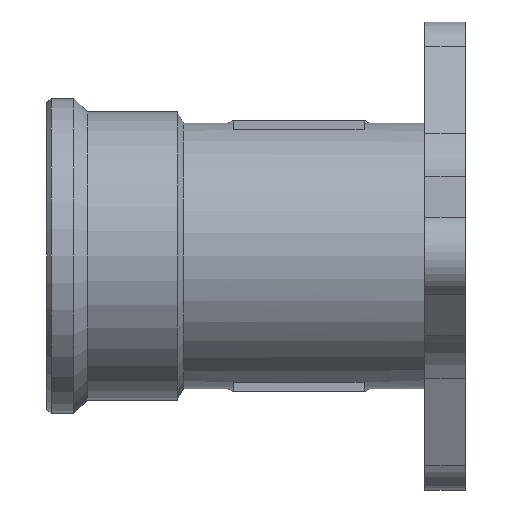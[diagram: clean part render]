
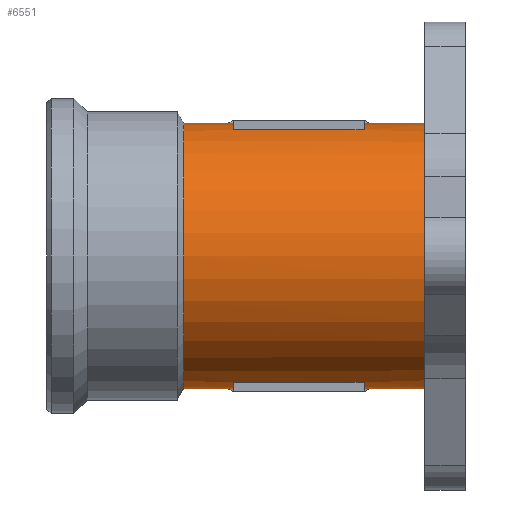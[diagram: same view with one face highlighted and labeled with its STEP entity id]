
A CAD part, left-side view. The second image highlights one B-rep face of the part: STEP entity #6551.
In plain terms, the highlighted cylindrical face has radius 14.75 mm (diameter 29.5 mm), a full revolution.
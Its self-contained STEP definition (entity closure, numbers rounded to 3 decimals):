
#165=B_SPLINE_CURVE_WITH_KNOTS('',3,(#10443,#10444,#10445,#10446,#10447,
#10448,#10449,#10450),.UNSPECIFIED.,.F.,.F.,(4,1,1,1,1,4),(0.,0.2,
0.4,0.8,1.201,1.401),
 .UNSPECIFIED.);
#166=B_SPLINE_CURVE_WITH_KNOTS('',3,(#10452,#10453,#10454,#10455,#10456,
#10457,#10458,#10459,#10460,#10461,#10462,#10463,#10464),.UNSPECIFIED.,
 .F.,.F.,(4,1,1,1,1,1,1,1,1,1,4),(1.401,1.601,2.001,
2.401,2.668,2.935,3.202,3.469,
3.736,4.002,4.203),.UNSPECIFIED.);
#167=B_SPLINE_CURVE_WITH_KNOTS('',3,(#10465,#10466,#10467,#10468,#10469,
#10470,#10471,#10472,#10473),.UNSPECIFIED.,.F.,.F.,(4,1,1,1,1,1,4),(4.203,
4.203,4.403,4.803,5.203,5.403,
5.603),.UNSPECIFIED.);
#324=FACE_BOUND('',#1001,.T.);
#325=FACE_BOUND('',#1002,.T.);
#554=CYLINDRICAL_SURFACE('',#6974,14.75);
#634=FACE_OUTER_BOUND('',#1000,.T.);
#1000=EDGE_LOOP('',(#4642,#4643,#4644,#4645,#4646,#4647,#4648,#4649,#4650,
#4651,#4652,#4653,#4654,#4655));
#1001=EDGE_LOOP('',(#4656,#4657,#4658,#4659));
#1002=EDGE_LOOP('',(#4660,#4661,#4662,#4663));
#1404=LINE('',#10507,#1965);
#1405=LINE('',#10508,#1966);
#1406=LINE('',#10509,#1967);
#1407=LINE('',#10510,#1968);
#1408=LINE('',#10513,#1969);
#1409=LINE('',#10517,#1970);
#1410=LINE('',#10521,#1971);
#1411=LINE('',#10525,#1972);
#1965=VECTOR('',#7657,14.75);
#1966=VECTOR('',#7658,14.75);
#1967=VECTOR('',#7659,10.);
#1968=VECTOR('',#7660,10.);
#1969=VECTOR('',#7661,10.);
#1970=VECTOR('',#7664,10.);
#1971=VECTOR('',#7667,10.);
#1972=VECTOR('',#7670,10.);
#2497=CIRCLE('',#6946,14.75);
#2498=CIRCLE('',#6947,14.75);
#2507=CIRCLE('',#6963,14.75);
#2516=CIRCLE('',#6975,14.75);
#2517=CIRCLE('',#6976,14.75);
#2518=CIRCLE('',#6977,14.75);
#2519=CIRCLE('',#6978,14.75);
#2520=CIRCLE('',#6979,14.75);
#2521=CIRCLE('',#6980,14.75);
#2801=VERTEX_POINT('',#10237);
#2812=VERTEX_POINT('',#10258);
#2813=VERTEX_POINT('',#10260);
#2822=VERTEX_POINT('',#10292);
#2823=VERTEX_POINT('',#10293);
#2837=VERTEX_POINT('',#10440);
#2838=VERTEX_POINT('',#10442);
#2839=VERTEX_POINT('',#10451);
#2841=VERTEX_POINT('',#10503);
#2842=VERTEX_POINT('',#10504);
#2843=VERTEX_POINT('',#10511);
#2844=VERTEX_POINT('',#10512);
#2845=VERTEX_POINT('',#10514);
#2846=VERTEX_POINT('',#10516);
#2847=VERTEX_POINT('',#10519);
#2848=VERTEX_POINT('',#10520);
#2849=VERTEX_POINT('',#10522);
#2850=VERTEX_POINT('',#10524);
#3529=EDGE_CURVE('',#2813,#2812,#2497,.T.);
#3530=EDGE_CURVE('',#2801,#2813,#2498,.T.);
#3545=EDGE_CURVE('',#2822,#2823,#2507,.T.);
#3562=EDGE_CURVE('',#2837,#2838,#165,.T.);
#3563=EDGE_CURVE('',#2838,#2839,#166,.T.);
#3564=EDGE_CURVE('',#2839,#2837,#167,.T.);
#3567=EDGE_CURVE('',#2841,#2842,#2516,.T.);
#3568=EDGE_CURVE('',#2842,#2841,#2517,.T.);
#3569=EDGE_CURVE('',#2842,#2839,#1404,.T.);
#3570=EDGE_CURVE('',#2838,#2813,#1405,.T.);
#3571=EDGE_CURVE('',#2812,#2822,#1406,.T.);
#3572=EDGE_CURVE('',#2823,#2801,#1407,.T.);
#3573=EDGE_CURVE('',#2843,#2844,#1408,.T.);
#3574=EDGE_CURVE('',#2844,#2845,#2518,.T.);
#3575=EDGE_CURVE('',#2845,#2846,#1409,.T.);
#3576=EDGE_CURVE('',#2846,#2843,#2519,.T.);
#3577=EDGE_CURVE('',#2847,#2848,#1410,.T.);
#3578=EDGE_CURVE('',#2848,#2849,#2520,.T.);
#3579=EDGE_CURVE('',#2849,#2850,#1411,.T.);
#3580=EDGE_CURVE('',#2850,#2847,#2521,.T.);
#4642=ORIENTED_EDGE('',*,*,#3567,.F.);
#4643=ORIENTED_EDGE('',*,*,#3568,.F.);
#4644=ORIENTED_EDGE('',*,*,#3569,.T.);
#4645=ORIENTED_EDGE('',*,*,#3563,.F.);
#4646=ORIENTED_EDGE('',*,*,#3570,.T.);
#4647=ORIENTED_EDGE('',*,*,#3529,.T.);
#4648=ORIENTED_EDGE('',*,*,#3571,.T.);
#4649=ORIENTED_EDGE('',*,*,#3545,.T.);
#4650=ORIENTED_EDGE('',*,*,#3572,.T.);
#4651=ORIENTED_EDGE('',*,*,#3530,.T.);
#4652=ORIENTED_EDGE('',*,*,#3570,.F.);
#4653=ORIENTED_EDGE('',*,*,#3562,.F.);
#4654=ORIENTED_EDGE('',*,*,#3564,.F.);
#4655=ORIENTED_EDGE('',*,*,#3569,.F.);
#4656=ORIENTED_EDGE('',*,*,#3573,.T.);
#4657=ORIENTED_EDGE('',*,*,#3574,.T.);
#4658=ORIENTED_EDGE('',*,*,#3575,.T.);
#4659=ORIENTED_EDGE('',*,*,#3576,.T.);
#4660=ORIENTED_EDGE('',*,*,#3577,.T.);
#4661=ORIENTED_EDGE('',*,*,#3578,.T.);
#4662=ORIENTED_EDGE('',*,*,#3579,.T.);
#4663=ORIENTED_EDGE('',*,*,#3580,.T.);
#6551=ADVANCED_FACE('',(#634,#324,#325),#554,.T.);
#6946=AXIS2_PLACEMENT_3D('',#10261,#7581,#7582);
#6947=AXIS2_PLACEMENT_3D('',#10262,#7583,#7584);
#6963=AXIS2_PLACEMENT_3D('',#10294,#7621,#7622);
#6974=AXIS2_PLACEMENT_3D('',#10502,#7651,#7652);
#6975=AXIS2_PLACEMENT_3D('',#10505,#7653,#7654);
#6976=AXIS2_PLACEMENT_3D('',#10506,#7655,#7656);
#6977=AXIS2_PLACEMENT_3D('',#10515,#7662,#7663);
#6978=AXIS2_PLACEMENT_3D('',#10518,#7665,#7666);
#6979=AXIS2_PLACEMENT_3D('',#10523,#7668,#7669);
#6980=AXIS2_PLACEMENT_3D('',#10526,#7671,#7672);
#7581=DIRECTION('center_axis',(0.,1.,0.));
#7582=DIRECTION('ref_axis',(1.,0.,0.));
#7583=DIRECTION('center_axis',(0.,1.,0.));
#7584=DIRECTION('ref_axis',(1.,0.,0.));
#7621=DIRECTION('center_axis',(0.,1.,0.));
#7622=DIRECTION('ref_axis',(-1.,0.,0.));
#7651=DIRECTION('center_axis',(0.,1.,0.));
#7652=DIRECTION('ref_axis',(-1.,0.,0.));
#7653=DIRECTION('center_axis',(0.,1.,0.));
#7654=DIRECTION('ref_axis',(1.,0.,0.));
#7655=DIRECTION('center_axis',(0.,1.,0.));
#7656=DIRECTION('ref_axis',(1.,0.,0.));
#7657=DIRECTION('',(0.,-1.,0.));
#7658=DIRECTION('',(0.,-1.,0.));
#7659=DIRECTION('',(0.,1.,0.));
#7660=DIRECTION('',(0.,-1.,0.));
#7661=DIRECTION('',(0.,-1.,0.));
#7662=DIRECTION('center_axis',(0.,-1.,0.));
#7663=DIRECTION('ref_axis',(-1.,0.,0.));
#7664=DIRECTION('',(0.,1.,0.));
#7665=DIRECTION('center_axis',(0.,1.,0.));
#7666=DIRECTION('ref_axis',(-1.,0.,0.));
#7667=DIRECTION('',(0.,1.,0.));
#7668=DIRECTION('center_axis',(0.,1.,0.));
#7669=DIRECTION('ref_axis',(-1.,0.,0.));
#7670=DIRECTION('',(0.,-1.,0.));
#7671=DIRECTION('center_axis',(0.,-1.,0.));
#7672=DIRECTION('ref_axis',(-1.,0.,0.));
#10237=CARTESIAN_POINT('',(12.61,-18.5,7.652));
#10258=CARTESIAN_POINT('',(12.61,-18.5,-7.652));
#10260=CARTESIAN_POINT('',(14.75,-18.5,0.));
#10261=CARTESIAN_POINT('Origin',(0.,-18.5,0.));
#10262=CARTESIAN_POINT('Origin',(0.,-18.5,0.));
#10292=CARTESIAN_POINT('',(12.61,-14.,-7.652));
#10293=CARTESIAN_POINT('',(12.61,-14.,7.652));
#10294=CARTESIAN_POINT('Origin',(0.,-14.,0.));
#10440=CARTESIAN_POINT('',(11.396,0.,9.365));
#10442=CARTESIAN_POINT('',(14.75,-10.,0.));
#10443=CARTESIAN_POINT('Ctrl Pts',(11.396,0.,
9.365));
#10444=CARTESIAN_POINT('Ctrl Pts',(11.396,-0.771,
9.365));
#10445=CARTESIAN_POINT('Ctrl Pts',(11.538,-2.313,9.196));
#10446=CARTESIAN_POINT('Ctrl Pts',(12.272,-5.143,8.235));
#10447=CARTESIAN_POINT('Ctrl Pts',(13.594,-8.016,6.089));
#10448=CARTESIAN_POINT('Ctrl Pts',(14.589,-9.729,2.893));
#10449=CARTESIAN_POINT('Ctrl Pts',(14.75,-10.,0.723));
#10450=CARTESIAN_POINT('Ctrl Pts',(14.75,-10.,0.));
#10451=CARTESIAN_POINT('',(14.75,10.,0.));
#10452=CARTESIAN_POINT('Ctrl Pts',(14.75,-10.,0.));
#10453=CARTESIAN_POINT('Ctrl Pts',(14.75,-10.,-0.723));
#10454=CARTESIAN_POINT('Ctrl Pts',(14.589,-9.729,-2.894));
#10455=CARTESIAN_POINT('Ctrl Pts',(13.593,-8.015,-6.09));
#10456=CARTESIAN_POINT('Ctrl Pts',(12.185,-4.954,-8.377));
#10457=CARTESIAN_POINT('Ctrl Pts',(11.367,-1.576,-9.402));
#10458=CARTESIAN_POINT('Ctrl Pts',(11.369,1.576,-9.399));
#10459=CARTESIAN_POINT('Ctrl Pts',(12.068,4.473,-8.527));
#10460=CARTESIAN_POINT('Ctrl Pts',(13.055,6.884,-6.971));
#10461=CARTESIAN_POINT('Ctrl Pts',(14.014,8.738,-4.831));
#10462=CARTESIAN_POINT('Ctrl Pts',(14.624,9.79,-2.408));
#10463=CARTESIAN_POINT('Ctrl Pts',(14.75,10.,-0.723));
#10464=CARTESIAN_POINT('Ctrl Pts',(14.75,10.,0.));
#10465=CARTESIAN_POINT('Ctrl Pts',(14.75,10.,0.));
#10466=CARTESIAN_POINT('Ctrl Pts',(14.75,10.,0.));
#10467=CARTESIAN_POINT('Ctrl Pts',(14.75,10.,0.723));
#10468=CARTESIAN_POINT('Ctrl Pts',(14.588,9.729,2.894));
#10469=CARTESIAN_POINT('Ctrl Pts',(13.594,8.016,6.089));
#10470=CARTESIAN_POINT('Ctrl Pts',(12.272,5.143,8.235));
#10471=CARTESIAN_POINT('Ctrl Pts',(11.538,2.313,9.196));
#10472=CARTESIAN_POINT('Ctrl Pts',(11.396,0.771,9.365));
#10473=CARTESIAN_POINT('Ctrl Pts',(11.396,0.,
9.365));
#10502=CARTESIAN_POINT('Origin',(0.,-2.861,0.));
#10503=CARTESIAN_POINT('',(-14.75,12.778,0.));
#10504=CARTESIAN_POINT('',(14.75,12.778,0.));
#10505=CARTESIAN_POINT('Origin',(0.,12.778,0.));
#10506=CARTESIAN_POINT('Origin',(0.,12.778,0.));
#10507=CARTESIAN_POINT('',(14.75,-2.861,0.));
#10508=CARTESIAN_POINT('',(14.75,-2.861,0.));
#10509=CARTESIAN_POINT('',(12.61,-2.861,-7.652));
#10510=CARTESIAN_POINT('',(12.61,-2.861,7.652));
#10511=CARTESIAN_POINT('',(-4.5,7.25,-14.047));
#10512=CARTESIAN_POINT('',(-4.5,-7.25,-14.047));
#10513=CARTESIAN_POINT('',(-4.5,-2.861,-14.047));
#10514=CARTESIAN_POINT('',(4.5,-7.25,-14.047));
#10515=CARTESIAN_POINT('Origin',(0.,-7.25,0.));
#10516=CARTESIAN_POINT('',(4.5,7.25,-14.047));
#10517=CARTESIAN_POINT('',(4.5,-2.861,-14.047));
#10518=CARTESIAN_POINT('Origin',(0.,7.25,0.));
#10519=CARTESIAN_POINT('',(-4.5,-7.25,14.047));
#10520=CARTESIAN_POINT('',(-4.5,7.25,14.047));
#10521=CARTESIAN_POINT('',(-4.5,-2.861,14.047));
#10522=CARTESIAN_POINT('',(4.5,7.25,14.047));
#10523=CARTESIAN_POINT('Origin',(0.,7.25,0.));
#10524=CARTESIAN_POINT('',(4.5,-7.25,14.047));
#10525=CARTESIAN_POINT('',(4.5,-2.861,14.047));
#10526=CARTESIAN_POINT('Origin',(0.,-7.25,0.));
